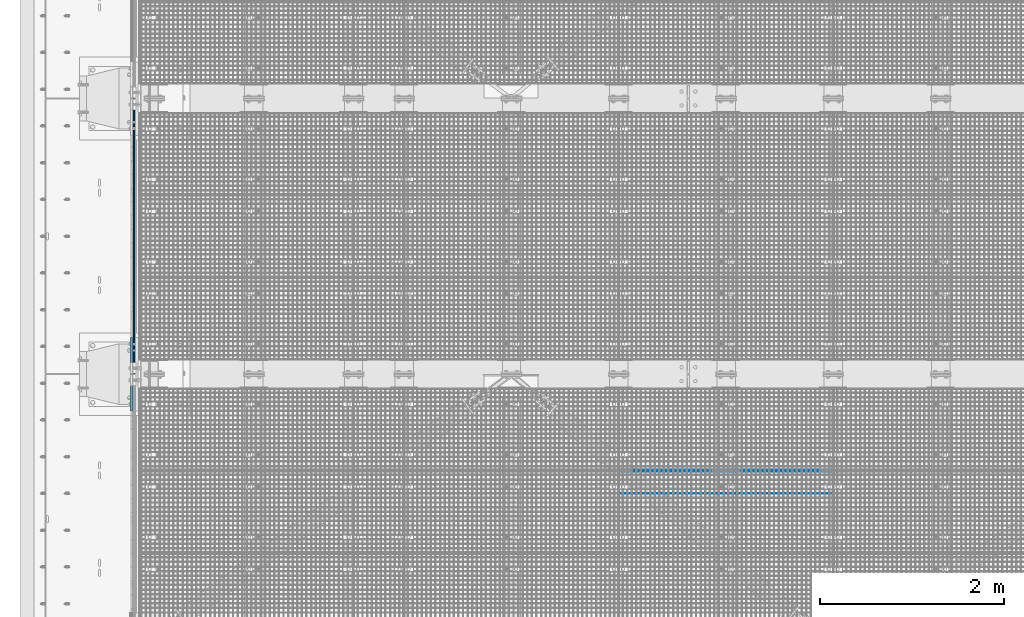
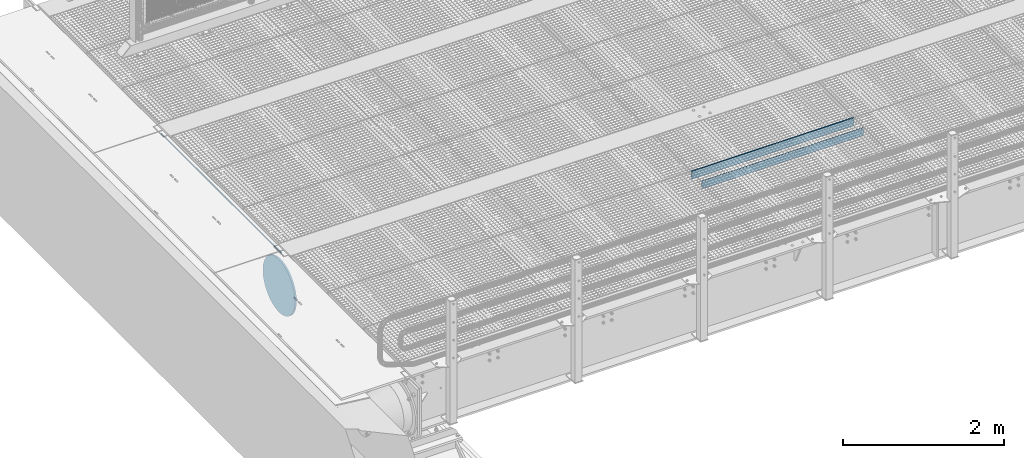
# One storey, part 256 of 1530: 5 beams.
"""IFC2X3 building model written with IfcOpenShell, lengths in millimetres."""

from ifc_helpers import new_model, si_unit, frame, origin_with_axes, place, context, subcontext, project, spatial, faceted_brep, material, type_object, element, save


model = new_model("IFC2X3")

# Units and contexts
model_context = context("Model", 3, precision=1e-05, world=origin_with_axes())
body_context = subcontext(model_context, "Body", "Model", "MODEL_VIEW")
ifc_project = project(units=[si_unit("LENGTHUNIT", "METRE", prefix="MILLI"), si_unit("AREAUNIT", "SQUARE_METRE"), si_unit("VOLUMEUNIT", "CUBIC_METRE"), si_unit("MASSUNIT", "GRAM", prefix="KILO"), si_unit("TIMEUNIT", "SECOND"), si_unit("PLANEANGLEUNIT", "RADIAN"), si_unit("SOLIDANGLEUNIT", "STERADIAN"), si_unit("THERMODYNAMICTEMPERATUREUNIT", "DEGREE_CELSIUS"), si_unit("LUMINOUSINTENSITYUNIT", "LUMEN")], contexts=[model_context])

# Site, building, storey
site_placement = place(None, origin_with_axes())
site = spatial("IfcSite", under=ifc_project, at=site_placement, Name="Brattvåg", CompositionType="ELEMENT")
building_placement = place(site_placement, origin_with_axes())
building = spatial("IfcBuilding", under=site, at=building_placement, Name="Undefined", CompositionType="ELEMENT")
storey_placement = place(building_placement, origin_with_axes())
storey = spatial("IfcBuildingStorey", under=building, at=storey_placement, Name="Undefined", CompositionType="ELEMENT", Elevation=0.0)

# Beams
ifc_material_1 = material(Name="STEEL/S355J2")
beam_type_1 = type_object("IfcBeamType", Name="120*5", PredefinedType="NOTDEFINED")
beam_1_placement = place(storey_placement, frame((7570.01317977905, 1699.9952545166, -59.9998626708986), z_axis=(0.0, 0.0, 1.0), x_axis=(-1.0, 1.99999855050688e-09, 0.0)))
element("IfcBeam", 1, at=beam_1_placement, inside=storey, type_object=beam_type_1, material=ifc_material_1, Name="GRATING", context=body_context, shape_type="Brep", body=[
    faceted_brep([(83.5790367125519, -2.50000000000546, 60.0000722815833), (83.5790367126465, -2.50000000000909, 35.0001373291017), (83.5790367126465, 2.50022888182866, 35.0001373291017), (83.5790367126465, 2.5, 60.0), (88.5790367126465, -2.50000000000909, 35.0001373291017), (88.5790367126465, 2.50022888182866, 35.0001373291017), (88.5790367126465, -2.50000000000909, 60.0001373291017), (88.5790367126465, 2.5, 60.0), (38.6284370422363, -2.50000000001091, 60.0001373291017), (38.6284370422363, 2.5, 60.0), (38.6284370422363, 2.49999999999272, 35.0001373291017), (38.6284370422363, -2.50000000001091, 35.0001373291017), (33.6284370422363, 2.49999999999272, 35.0001373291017), (33.6284370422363, -2.50000000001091, 35.0001373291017), (33.6284370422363, -2.5, 60.0), (33.6284370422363, 2.5, 60.0), (0.0, 2.5, 60.0), (0.0, -2.5, 60.0), (0.0, -2.5, -60.0), (0.0, 2.5, -60.0), (2319.99865722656, 2.5, -60.0), (2319.99865722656, -2.5, -60.0), (2319.99865722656, -2.5, 60.0), (2319.99865722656, 2.5, 60.0), (2286.37871932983, 2.5, 60.0), (2286.37871932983, -2.50000000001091, 60.0001373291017), (2286.37871932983, 2.49999999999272, 35.0001373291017), (2286.37871932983, -2.50000000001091, 35.0001373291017), (2281.37871932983, 2.49999999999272, 35.0001373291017), (2281.37871932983, -2.50000000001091, 35.0001373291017), (2281.37871932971, -2.50000000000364, 60.0000634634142), (2281.37871932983, 2.5, 60.0), (2236.42859649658, 2.5, 60.0), (2236.42859649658, -2.50000000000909, 60.0001373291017), (2236.42859649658, 2.50022888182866, 35.0001373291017), (2236.42859649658, -2.50000000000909, 35.0001373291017), (2231.42859649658, 2.50022888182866, 35.0001373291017), (2231.42859649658, -2.50000000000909, 35.0001373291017), (2231.42859649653, -2.50000000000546, 60.0000910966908), (2231.42859649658, 2.5, 60.0), (2186.47847366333, 2.5, 60.0), (2186.47847366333, -2.50000000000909, 60.0001373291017), (2186.47847366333, 2.50022888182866, 35.0001373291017), (2186.47847366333, -2.50000000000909, 35.0001373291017), (2181.47847366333, 2.50022888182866, 35.0001373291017), (2181.47847366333, -2.50000000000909, 35.0001373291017), (2181.47847366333, -2.5, 60.0), (2181.47847366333, 2.5, 60.0), (2136.52882766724, 2.5, 60.0), (2136.52882766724, -2.50000000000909, 60.0001373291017), (2136.52882766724, 2.50022888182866, 35.0001373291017), (2136.52882766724, -2.50000000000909, 35.0001373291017), (2131.52882766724, 2.50022888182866, 35.0001373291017), (2131.52882766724, -2.50000000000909, 35.0001373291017), (2131.52882766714, -2.50000000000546, 60.0000722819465), (2131.52882766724, 2.5, 60.0), (2086.57870483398, 2.5, 60.0), (2086.57870483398, -2.50000000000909, 60.0001373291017), (2086.57870483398, 2.50022888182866, 35.0001373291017), (2086.57870483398, -2.50000000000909, 35.0001373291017), (2081.57870483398, 2.50022888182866, 35.0001373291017), (2081.57870483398, -2.50000000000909, 35.0001373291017), (2081.57870483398, -2.5, 60.0), (2081.57870483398, 2.5, 60.0), (2036.62858200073, 2.5, 60.0), (2036.62858200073, -2.50000000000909, 60.0001373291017), (2036.62858200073, 2.50022888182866, 35.0001373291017), (2036.62858200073, -2.50000000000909, 35.0001373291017), (2031.62858200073, 2.50022888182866, 35.0001373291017), (2031.62858200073, -2.50000000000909, 35.0001373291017), (2031.62858200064, -2.50000000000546, 60.0000722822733), (2031.62858200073, 2.5, 60.0), (1986.67845916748, 2.5, 60.0), (1986.67845916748, -2.50000000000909, 60.0001373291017), (1986.67845916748, 2.50022888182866, 35.0001373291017), (1986.67845916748, -2.50000000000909, 35.0001373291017), (1981.67845916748, 2.50022888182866, 35.0001373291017), (1981.67845916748, -2.50000000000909, 35.0001373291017), (1981.67845916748, -2.5, 60.0), (1981.67845916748, 2.5, 60.0), (1936.72881317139, 2.5, 60.0), (1936.72881317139, -2.50000000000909, 60.0001373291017), (1936.72881317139, 2.50022888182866, 35.0001373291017), (1936.72881317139, -2.50000000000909, 35.0001373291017), (1931.72881317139, 2.50022888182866, 35.0001373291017), (1931.72881317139, -2.50000000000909, 35.0001373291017), (1931.72881317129, -2.50000000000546, 60.0000722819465), (1931.72881317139, 2.5, 60.0), (1886.77869033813, 2.5, 60.0), (1886.77869033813, -2.50000000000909, 60.0001373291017), (1886.77869033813, 2.50022888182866, 35.0001373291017), (1886.77869033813, -2.50000000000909, 35.0001373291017), (1881.77869033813, 2.50022888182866, 35.0001373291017), (1881.77869033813, -2.50000000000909, 35.0001373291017), (1881.77869033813, -2.5, 60.0), (1881.77869033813, 2.5, 60.0), (1836.82856750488, 2.5, 60.0), (1836.82856750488, -2.50000000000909, 60.0001373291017), (1836.82856750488, 2.50022888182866, 35.0001373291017), (1836.82856750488, -2.50000000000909, 35.0001373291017), (1831.82856750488, 2.50022888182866, 35.0001373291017), (1831.82856750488, -2.50000000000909, 35.0001373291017), (1831.82856750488, -2.5, 60.0), (1831.82856750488, 2.5, 60.0), (1786.87892150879, 2.5, 60.0), (1786.87892150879, -2.50000000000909, 60.0001373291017), (1786.87892150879, 2.50022888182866, 35.0001373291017), (1786.87892150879, -2.50000000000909, 35.0001373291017), (1781.87892150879, 2.50022888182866, 35.0001373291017), (1781.87892150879, -2.50000000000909, 35.0001373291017), (1781.87892150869, -2.50000000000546, 60.0000722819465), (1781.87892150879, 2.5, 60.0), (1736.92879867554, 2.5, 60.0), (1736.92879867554, -2.50000000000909, 60.0001373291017), (1736.92879867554, 2.50022888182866, 35.0001373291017), (1736.92879867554, -2.50000000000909, 35.0001373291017), (1731.92879867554, 2.50022888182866, 35.0001373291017), (1731.92879867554, -2.50000000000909, 35.0001373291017), (1731.92879867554, -2.5, 60.0), (1731.92879867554, 2.5, 60.0), (1686.97867584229, 2.5, 60.0), (1686.97867584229, -2.50000000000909, 60.0001373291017), (1686.97867584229, 2.50022888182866, 35.0001373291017), (1686.97867584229, -2.50000000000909, 35.0001373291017), (1681.97867584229, 2.50022888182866, 35.0001373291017), (1681.97867584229, -2.50000000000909, 35.0001373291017), (1681.97867584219, -2.50000000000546, 60.0000722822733), (1681.97867584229, 2.5, 60.0), (1637.02855300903, 2.5, 60.0), (1637.02855300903, -2.50000000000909, 60.0001373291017), (1637.02855300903, 2.50022888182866, 35.0001373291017), (1637.02855300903, -2.50000000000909, 35.0001373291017), (1632.02855300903, 2.50022888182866, 35.0001373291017), (1632.02855300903, -2.50000000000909, 35.0001373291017), (1632.02855300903, -2.5, 60.0), (1632.02855300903, 2.5, 60.0), (1587.07890701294, 2.5, 60.0), (1587.07890701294, -2.50000000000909, 60.0001373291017), (1587.07890701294, 2.50022888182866, 35.0001373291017), (1587.07890701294, -2.50000000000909, 35.0001373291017), (1582.07890701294, 2.50022888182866, 35.0001373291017), (1582.07890701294, -2.50000000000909, 35.0001373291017), (1582.07890701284, -2.50000000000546, 60.0000722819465), (1582.07890701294, 2.5, 60.0), (1537.12878417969, 2.5, 60.0), (1537.12878417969, -2.50000000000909, 60.0001373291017), (1537.12878417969, 2.50022888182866, 35.0001373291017), (1537.12878417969, -2.50000000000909, 35.0001373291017), (1532.12878417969, 2.50022888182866, 35.0001373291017), (1532.12878417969, -2.50000000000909, 35.0001373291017), (1532.12878417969, -2.5, 60.0), (1532.12878417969, 2.5, 60.0), (1487.17866134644, 2.5, 60.0), (1487.17866134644, -2.50000000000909, 60.0001373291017), (1487.17866134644, 2.50022888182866, 35.0001373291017), (1487.17866134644, -2.50000000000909, 35.0001373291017), (1482.17866134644, 2.50022888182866, 35.0001373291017), (1482.17866134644, -2.50000000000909, 35.0001373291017), (1482.17866134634, -2.50000000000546, 60.0000722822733), (1482.17866134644, 2.5, 60.0), (1437.22853851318, 2.5, 60.0), (1437.22853851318, -2.50000000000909, 60.0001373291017), (1437.22853851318, 2.50022888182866, 35.0001373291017), (1437.22853851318, -2.50000000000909, 35.0001373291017), (1432.22853851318, 2.50022888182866, 35.0001373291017), (1432.22853851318, -2.50000000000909, 35.0001373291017), (1432.22853851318, -2.5, 60.0), (1432.22853851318, 2.5, 60.0), (1387.27889251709, 2.5, 60.0), (1387.27889251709, -2.50000000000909, 60.0001373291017), (1387.27889251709, 2.50022888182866, 35.0001373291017), (1387.27889251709, -2.50000000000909, 35.0001373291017), (1382.27889251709, 2.50022888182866, 35.0001373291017), (1382.27889251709, -2.50000000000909, 35.0001373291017), (1382.278892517, -2.50000000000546, 60.0000722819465), (1382.27889251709, 2.5, 60.0), (1337.32876968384, 2.5, 60.0), (1337.32876968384, -2.50000000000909, 60.0001373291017), (1337.32876968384, 2.50022888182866, 35.0001373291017), (1337.32876968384, -2.50000000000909, 35.0001373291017), (1332.32876968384, 2.50022888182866, 35.0001373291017), (1332.32876968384, -2.50000000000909, 35.0001373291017), (1332.32876968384, -2.5, 60.0), (1332.32876968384, 2.5, 60.0), (1287.37864685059, 2.5, 60.0), (1287.37864685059, -2.50000000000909, 60.0001373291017), (1287.37864685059, 2.50022888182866, 35.0001373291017), (1287.37864685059, -2.50000000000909, 35.0001373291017), (1282.37864685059, 2.50022888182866, 35.0001373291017), (1282.37864685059, -2.50000000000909, 35.0001373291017), (1282.37864685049, -2.50000000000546, 60.0000722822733), (1282.37864685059, 2.5, 60.0), (1237.42852401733, 2.5, 60.0), (1237.42852401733, -2.50000000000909, 60.0001373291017), (1237.42852401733, 2.50022888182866, 35.0001373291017), (1237.42852401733, -2.50000000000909, 35.0001373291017), (1232.42852401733, 2.50022888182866, 35.0001373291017), (1232.42852401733, -2.50000000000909, 35.0001373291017), (1232.42852401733, -2.5, 60.0), (1232.42852401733, 2.5, 60.0), (1187.47887802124, 2.5, 60.0), (1187.47887802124, -2.50000000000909, 60.0001373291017), (1187.47887802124, 2.50022888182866, 35.0001373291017), (1187.47887802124, -2.50000000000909, 35.0001373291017), (1182.47887802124, 2.50022888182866, 35.0001373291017), (1182.47887802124, -2.50000000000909, 35.0001373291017), (1182.47887802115, -2.50000000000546, 60.0000722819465), (1182.47887802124, 2.5, 60.0), (1137.52875518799, 2.5, 60.0), (1137.52875518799, -2.50000000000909, 60.0001373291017), (1137.52875518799, 2.50022888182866, 35.0001373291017), (1137.52875518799, -2.50000000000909, 35.0001373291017), (1132.52875518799, 2.50022888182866, 35.0001373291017), (1132.52875518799, -2.50000000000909, 35.0001373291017), (1132.52875518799, -2.5, 60.0), (1132.52875518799, 2.5, 60.0), (1087.57863235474, 2.5, 60.0), (1087.57863235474, -2.50000000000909, 60.0001373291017), (1087.57863235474, 2.50022888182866, 35.0001373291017), (1087.57863235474, -2.50000000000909, 35.0001373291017), (1082.57863235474, 2.50022888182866, 35.0001373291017), (1082.57863235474, -2.50000000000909, 35.0001373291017), (1082.57863235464, -2.50000000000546, 60.0000722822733), (1082.57863235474, 2.5, 60.0), (1037.62850952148, 2.5, 60.0), (1037.62850952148, -2.50000000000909, 60.0001373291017), (1037.62850952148, 2.50022888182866, 35.0001373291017), (1037.62850952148, -2.50000000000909, 35.0001373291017), (1032.62850952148, 2.50022888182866, 35.0001373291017), (1032.62850952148, -2.50000000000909, 35.0001373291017), (1032.62850952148, -2.5, 60.0), (1032.62850952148, 2.5, 60.0), (987.678863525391, 2.5, 60.0), (987.678863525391, -2.50000000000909, 60.0001373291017), (987.678863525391, 2.50022888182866, 35.0001373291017), (987.678863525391, -2.50000000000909, 35.0001373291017), (982.678863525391, 2.50022888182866, 35.0001373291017), (982.678863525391, -2.50000000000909, 35.0001373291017), (982.678863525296, -2.50000000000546, 60.0000722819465), (982.678863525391, 2.5, 60.0), (937.728740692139, 2.5, 60.0), (937.728740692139, -2.50000000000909, 60.0001373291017), (937.728740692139, 2.50022888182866, 35.0001373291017), (937.728740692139, -2.50000000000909, 35.0001373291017), (932.728740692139, 2.50022888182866, 35.0001373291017), (932.728740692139, -2.50000000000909, 35.0001373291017), (932.728740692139, -2.5, 60.0), (932.728740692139, 2.5, 60.0), (887.778617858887, 2.5, 60.0), (887.778617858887, -2.50000000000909, 60.0001373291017), (887.778617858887, 2.50022888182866, 35.0001373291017), (887.778617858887, -2.50000000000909, 35.0001373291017), (882.778617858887, 2.50022888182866, 35.0001373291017), (882.778617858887, -2.50000000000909, 35.0001373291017), (882.778617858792, -2.50000000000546, 60.0000722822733), (882.778617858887, 2.5, 60.0), (837.828495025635, 2.5, 60.0), (837.828495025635, -2.50000000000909, 60.0001373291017), (837.828495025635, 2.50022888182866, 35.0001373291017), (837.828495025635, -2.50000000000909, 35.0001373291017), (832.828495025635, 2.50022888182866, 35.0001373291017), (832.828495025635, -2.50000000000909, 35.0001373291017), (832.828495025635, -2.5, 60.0), (832.828495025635, 2.5, 60.0), (787.878849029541, 2.5, 60.0), (787.878849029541, -2.50000000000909, 60.0001373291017), (787.878849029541, 2.50022888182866, 35.0001373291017), (787.878849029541, -2.50000000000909, 35.0001373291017), (782.878849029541, 2.50022888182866, 35.0001373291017), (782.878849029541, -2.50000000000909, 35.0001373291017), (782.878849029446, -2.50000000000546, 60.0000722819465), (782.878849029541, 2.5, 60.0), (737.928726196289, 2.5, 60.0), (737.928726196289, -2.50000000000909, 60.0001373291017), (737.928726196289, 2.50022888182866, 35.0001373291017), (737.928726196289, -2.50000000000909, 35.0001373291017), (732.928726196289, 2.50022888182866, 35.0001373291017), (732.928726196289, -2.50000000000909, 35.0001373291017), (732.928726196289, -2.5, 60.0), (732.928726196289, 2.5, 60.0), (687.978603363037, 2.5, 60.0), (687.978603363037, -2.50000000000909, 60.0001373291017), (687.978603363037, 2.50022888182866, 35.0001373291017), (687.978603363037, -2.50000000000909, 35.0001373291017), (682.978603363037, 2.50022888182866, 35.0001373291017), (682.978603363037, -2.50000000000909, 35.0001373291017), (682.978603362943, -2.50000000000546, 60.0000722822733), (682.978603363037, 2.5, 60.0), (638.028480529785, 2.5, 60.0), (638.028480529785, -2.50000000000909, 60.0001373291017), (638.028480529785, 2.50022888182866, 35.0001373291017), (638.028480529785, -2.50000000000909, 35.0001373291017), (633.028480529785, 2.50022888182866, 35.0001373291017), (633.028480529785, -2.50000000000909, 35.0001373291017), (633.028480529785, -2.5, 60.0), (633.028480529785, 2.5, 60.0), (588.078834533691, 2.5, 60.0), (588.078834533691, -2.50000000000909, 60.0001373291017), (588.078834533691, 2.50022888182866, 35.0001373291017), (588.078834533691, -2.50000000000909, 35.0001373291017), (583.078834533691, 2.50022888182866, 35.0001373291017), (583.078834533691, -2.50000000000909, 35.0001373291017), (583.078834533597, -2.50000000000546, 60.0000722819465), (583.078834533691, 2.5, 60.0), (538.128711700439, 2.5, 60.0), (538.128711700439, -2.50000000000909, 60.0001373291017), (538.128711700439, 2.50022888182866, 35.0001373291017), (538.128711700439, -2.50000000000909, 35.0001373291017), (533.128711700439, 2.50022888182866, 35.0001373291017), (533.128711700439, -2.50000000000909, 35.0001373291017), (533.128711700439, -2.5, 60.0), (533.128711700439, 2.5, 60.0), (488.178588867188, 2.5, 60.0), (488.178588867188, -2.50000000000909, 60.0001373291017), (488.178588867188, 2.50022888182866, 35.0001373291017), (488.178588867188, -2.50000000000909, 35.0001373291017), (483.178588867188, 2.50022888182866, 35.0001373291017), (483.178588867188, -2.50000000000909, 35.0001373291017), (483.178588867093, -2.50000000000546, 60.0000722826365), (483.178588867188, 2.5, 60.0), (438.228942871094, 2.5, 60.0), (438.228942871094, -2.50000000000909, 60.0001373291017), (438.228942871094, 2.50022888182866, 35.0001373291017), (438.228942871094, -2.50000000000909, 35.0001373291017), (433.228942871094, 2.50022888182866, 35.0001373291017), (433.228942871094, -2.50000000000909, 35.0001373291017), (433.228942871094, -2.5, 60.0), (433.228942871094, 2.5, 60.0), (388.278820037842, 2.5, 60.0), (388.278820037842, -2.50000000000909, 60.0001373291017), (388.278820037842, 2.50022888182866, 35.0001373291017), (388.278820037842, -2.50000000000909, 35.0001373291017), (383.278820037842, 2.50022888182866, 35.0001373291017), (383.278820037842, -2.50000000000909, 35.0001373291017), (383.278820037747, -2.50000000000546, 60.0000722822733), (383.278820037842, 2.5, 60.0), (338.32869720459, 2.5, 60.0), (338.32869720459, -2.50000000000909, 60.0001373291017), (338.32869720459, 2.50022888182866, 35.0001373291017), (338.32869720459, -2.50000000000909, 35.0001373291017), (333.32869720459, 2.50022888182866, 35.0001373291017), (333.32869720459, -2.50000000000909, 35.0001373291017), (333.32869720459, -2.5, 60.0), (333.32869720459, 2.5, 60.0), (288.378574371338, 2.5, 60.0), (288.378574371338, -2.50000000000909, 60.0001373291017), (288.378574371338, 2.50022888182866, 35.0001373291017), (288.378574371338, -2.50000000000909, 35.0001373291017), (283.378574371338, 2.50022888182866, 35.0001373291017), (283.378574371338, -2.50000000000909, 35.0001373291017), (283.378574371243, -2.50000000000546, 60.0000722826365), (283.378574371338, 2.5, 60.0), (238.428928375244, 2.5, 60.0), (238.428928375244, -2.50000000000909, 60.0001373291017), (238.428928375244, 2.50022888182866, 35.0001373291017), (238.428928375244, -2.50000000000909, 35.0001373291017), (233.428928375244, 2.50022888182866, 35.0001373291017), (233.428928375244, -2.50000000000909, 35.0001373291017), (233.428928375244, -2.5, 60.0), (233.428928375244, 2.5, 60.0), (188.478328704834, 2.5, 60.0), (188.478328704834, -2.50000000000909, 60.0001373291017), (188.478328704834, 2.50022888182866, 35.0001373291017), (188.478328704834, -2.50000000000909, 35.0001373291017), (183.478328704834, 2.50022888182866, 35.0001373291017), (183.478328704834, -2.50000000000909, 35.0001373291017), (183.478328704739, -2.50000000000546, 60.0000722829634), (183.478328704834, 2.5, 60.0), (138.52868270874, 2.5, 60.0), (138.52868270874, -2.50000000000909, 60.0001373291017), (138.52868270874, 2.50022888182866, 35.0001373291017), (138.52868270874, -2.50000000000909, 35.0001373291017), (133.52868270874, 2.50022888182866, 35.0001373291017), (133.52868270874, -2.50000000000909, 35.0001373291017), (133.52868270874, -2.5, 60.0), (133.52868270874, 2.5, 60.0)], [[[0, 1, 2, 3]], [[4, 5, 2, 1]], [[6, 7, 5, 4]], [[8, 9, 10, 11]], [[11, 10, 12, 13]], [[14, 13, 12, 15]], [[16, 17, 14, 15]], [[18, 17, 16, 19]], [[18, 19, 20, 21]], [[22, 21, 20, 23]], [[22, 23, 24, 25]], [[25, 24, 26, 27]], [[27, 26, 28, 29]], [[30, 29, 28, 31]], [[32, 33, 30, 31]], [[33, 32, 34, 35]], [[35, 34, 36, 37]], [[38, 37, 36, 39]], [[40, 41, 38, 39]], [[41, 40, 42, 43]], [[43, 42, 44, 45]], [[46, 45, 44, 47]], [[46, 47, 48, 49]], [[49, 48, 50, 51]], [[51, 50, 52, 53]], [[54, 53, 52, 55]], [[56, 57, 54, 55]], [[57, 56, 58, 59]], [[59, 58, 60, 61]], [[62, 61, 60, 63]], [[62, 63, 64, 65]], [[65, 64, 66, 67]], [[67, 66, 68, 69]], [[70, 69, 68, 71]], [[72, 73, 70, 71]], [[73, 72, 74, 75]], [[75, 74, 76, 77]], [[78, 77, 76, 79]], [[78, 79, 80, 81]], [[81, 80, 82, 83]], [[83, 82, 84, 85]], [[86, 85, 84, 87]], [[88, 89, 86, 87]], [[89, 88, 90, 91]], [[91, 90, 92, 93]], [[94, 93, 92, 95]], [[94, 95, 96, 97]], [[97, 96, 98, 99]], [[99, 98, 100, 101]], [[102, 101, 100, 103]], [[102, 103, 104, 105]], [[105, 104, 106, 107]], [[107, 106, 108, 109]], [[110, 109, 108, 111]], [[112, 113, 110, 111]], [[113, 112, 114, 115]], [[115, 114, 116, 117]], [[118, 117, 116, 119]], [[118, 119, 120, 121]], [[121, 120, 122, 123]], [[123, 122, 124, 125]], [[126, 125, 124, 127]], [[128, 129, 126, 127]], [[129, 128, 130, 131]], [[131, 130, 132, 133]], [[134, 133, 132, 135]], [[134, 135, 136, 137]], [[137, 136, 138, 139]], [[139, 138, 140, 141]], [[142, 141, 140, 143]], [[144, 145, 142, 143]], [[145, 144, 146, 147]], [[147, 146, 148, 149]], [[150, 149, 148, 151]], [[150, 151, 152, 153]], [[153, 152, 154, 155]], [[155, 154, 156, 157]], [[158, 157, 156, 159]], [[160, 161, 158, 159]], [[161, 160, 162, 163]], [[163, 162, 164, 165]], [[166, 165, 164, 167]], [[166, 167, 168, 169]], [[169, 168, 170, 171]], [[171, 170, 172, 173]], [[174, 173, 172, 175]], [[176, 177, 174, 175]], [[177, 176, 178, 179]], [[179, 178, 180, 181]], [[182, 181, 180, 183]], [[182, 183, 184, 185]], [[185, 184, 186, 187]], [[187, 186, 188, 189]], [[190, 189, 188, 191]], [[192, 193, 190, 191]], [[193, 192, 194, 195]], [[195, 194, 196, 197]], [[198, 197, 196, 199]], [[198, 199, 200, 201]], [[201, 200, 202, 203]], [[203, 202, 204, 205]], [[206, 205, 204, 207]], [[208, 209, 206, 207]], [[209, 208, 210, 211]], [[211, 210, 212, 213]], [[214, 213, 212, 215]], [[214, 215, 216, 217]], [[217, 216, 218, 219]], [[219, 218, 220, 221]], [[222, 221, 220, 223]], [[224, 225, 222, 223]], [[225, 224, 226, 227]], [[227, 226, 228, 229]], [[230, 229, 228, 231]], [[230, 231, 232, 233]], [[233, 232, 234, 235]], [[235, 234, 236, 237]], [[238, 237, 236, 239]], [[240, 241, 238, 239]], [[241, 240, 242, 243]], [[243, 242, 244, 245]], [[246, 245, 244, 247]], [[246, 247, 248, 249]], [[249, 248, 250, 251]], [[251, 250, 252, 253]], [[254, 253, 252, 255]], [[256, 257, 254, 255]], [[257, 256, 258, 259]], [[259, 258, 260, 261]], [[262, 261, 260, 263]], [[262, 263, 264, 265]], [[265, 264, 266, 267]], [[267, 266, 268, 269]], [[270, 269, 268, 271]], [[272, 273, 270, 271]], [[273, 272, 274, 275]], [[275, 274, 276, 277]], [[278, 277, 276, 279]], [[278, 279, 280, 281]], [[281, 280, 282, 283]], [[283, 282, 284, 285]], [[286, 285, 284, 287]], [[288, 289, 286, 287]], [[289, 288, 290, 291]], [[291, 290, 292, 293]], [[294, 293, 292, 295]], [[294, 295, 296, 297]], [[297, 296, 298, 299]], [[299, 298, 300, 301]], [[302, 301, 300, 303]], [[304, 305, 302, 303]], [[305, 304, 306, 307]], [[307, 306, 308, 309]], [[310, 309, 308, 311]], [[310, 311, 312, 313]], [[313, 312, 314, 315]], [[315, 314, 316, 317]], [[318, 317, 316, 319]], [[320, 321, 318, 319]], [[321, 320, 322, 323]], [[323, 322, 324, 325]], [[326, 325, 324, 327]], [[326, 327, 328, 329]], [[329, 328, 330, 331]], [[331, 330, 332, 333]], [[334, 333, 332, 335]], [[336, 337, 334, 335]], [[337, 336, 338, 339]], [[339, 338, 340, 341]], [[342, 341, 340, 343]], [[342, 343, 344, 345]], [[345, 344, 346, 347]], [[347, 346, 348, 349]], [[350, 349, 348, 351]], [[352, 353, 350, 351]], [[353, 352, 354, 355]], [[355, 354, 356, 357]], [[358, 357, 356, 359]], [[358, 359, 360, 361]], [[361, 360, 362, 363]], [[363, 362, 364, 365]], [[366, 365, 364, 367]], [[368, 369, 366, 367]], [[369, 368, 370, 371]], [[371, 370, 372, 373]], [[374, 373, 372, 375]], [[1, 0, 8, 11, 13, 14, 17, 18, 21, 22, 25, 27, 29, 30, 33, 35, 37, 38, 41, 43, 45, 46, 49, 51, 53, 54, 57, 59, 61, 62, 65, 67, 69, 70, 73, 75, 77, 78, 81, 83, 85, 86, 89, 91, 93, 94, 97, 99, 101, 102, 105, 107, 109, 110, 113, 115, 117, 118, 121, 123, 125, 126, 129, 131, 133, 134, 137, 139, 141, 142, 145, 147, 149, 150, 153, 155, 157, 158, 161, 163, 165, 166, 169, 171, 173, 174, 177, 179, 181, 182, 185, 187, 189, 190, 193, 195, 197, 198, 201, 203, 205, 206, 209, 211, 213, 214, 217, 219, 221, 222, 225, 227, 229, 230, 233, 235, 237, 238, 241, 243, 245, 246, 249, 251, 253, 254, 257, 259, 261, 262, 265, 267, 269, 270, 273, 275, 277, 278, 281, 283, 285, 286, 289, 291, 293, 294, 297, 299, 301, 302, 305, 307, 309, 310, 313, 315, 317, 318, 321, 323, 325, 326, 329, 331, 333, 334, 337, 339, 341, 342, 345, 347, 349, 350, 353, 355, 357, 358, 361, 363, 365, 366, 369, 371, 373, 374, 6, 4]], [[9, 8, 0, 3]], [[375, 372, 370, 368, 367, 364, 362, 360, 359, 356, 354, 352, 351, 348, 346, 344, 343, 340, 338, 336, 335, 332, 330, 328, 327, 324, 322, 320, 319, 316, 314, 312, 311, 308, 306, 304, 303, 300, 298, 296, 295, 292, 290, 288, 287, 284, 282, 280, 279, 276, 274, 272, 271, 268, 266, 264, 263, 260, 258, 256, 255, 252, 250, 248, 247, 244, 242, 240, 239, 236, 234, 232, 231, 228, 226, 224, 223, 220, 218, 216, 215, 212, 210, 208, 207, 204, 202, 200, 199, 196, 194, 192, 191, 188, 186, 184, 183, 180, 178, 176, 175, 172, 170, 168, 167, 164, 162, 160, 159, 156, 154, 152, 151, 148, 146, 144, 143, 140, 138, 136, 135, 132, 130, 128, 127, 124, 122, 120, 119, 116, 114, 112, 111, 108, 106, 104, 103, 100, 98, 96, 95, 92, 90, 88, 87, 84, 82, 80, 79, 76, 74, 72, 71, 68, 66, 64, 63, 60, 58, 56, 55, 52, 50, 48, 47, 44, 42, 40, 39, 36, 34, 32, 31, 28, 26, 24, 23, 20, 19, 16, 15, 12, 10, 9, 3, 2, 5, 7]], [[374, 375, 7, 6]]]),
])
for number, where, z_axis, x_axis, name in (
    (2, (7575.00899291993, 1941.49917602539, -59.9998626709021), (0.0, 0.0, 1.0), (-1.0, 1.99999855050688e-09, 0.0), "GRATING"),
    (3, (5245.01067138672, 1955.49868774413, -59.9998626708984), (0.0, 0.0, 1.0), (1.0, 0.0, 0.0), "GRATING"),
):
    element("IfcBeam", number, at=place(storey_placement, frame(where, z_axis=z_axis, x_axis=x_axis)), inside=storey, type_object=beam_type_1, material=ifc_material_1, Name=name, context=body_context, shape_type="Brep", body=[
        faceted_brep([(0.0, 2.5, -60.0), (0.0, 2.5, 60.0), (2329.99832153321, 2.5, 60.0), (2329.99832153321, 2.5, -60.0), (0.0, -2.5, 60.0), (2329.99832153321, -2.5, 60.0), (0.0, -2.5, -60.0), (2329.99832153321, -2.5, -60.0)], [[[0, 1, 2, 3]], [[1, 4, 5, 2]], [[4, 6, 7, 5]], [[6, 0, 3, 7]], [[5, 7, 3, 2]], [[6, 4, 1, 0]]]),
    ])
ifc_material_2 = material(Name="MISCELLANEOUS/NULLVEKT")
beam_type_2 = type_object("IfcBeamType", Name="D800", PredefinedType="NOTDEFINED")
beam_2_placement = place(storey_placement, frame((-50.0046202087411, 2999.99719192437, -515.000125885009), z_axis=(0.0, 0.0, 1.0), x_axis=(-1.0, 1.99999855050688e-09, 0.0)))
element("IfcBeam", 4, at=beam_2_placement, inside=storey, type_object=beam_type_2, material=ifc_material_2, Name="STÅLBJELKE", context=body_context, shape_type="Brep", body=[
    faceted_brep([(0.0, -400.0, 0.0), (0.0, -396.577944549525, -52.210476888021), (25.0, -396.577944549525, -52.210476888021), (25.0, -400.0, 0.0), (0.0, -386.370330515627, -103.527618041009), (25.0, -386.370330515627, -103.527618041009), (0.0, -369.551813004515, -153.073372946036), (25.0, -369.551813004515, -153.073372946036), (0.0, -346.410161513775, -200.0), (25.0, -346.410161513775, -200.0), (0.0, -317.341336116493, -243.504571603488), (25.0, -317.341336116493, -243.504571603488), (0.0, -282.842712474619, -282.842712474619), (25.0, -282.842712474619, -282.842712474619), (0.0, -243.504571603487, -317.341336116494), (25.0, -243.504571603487, -317.341336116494), (0.0, -200.0, -346.410161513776), (25.0, -200.0, -346.410161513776), (0.0, -153.073372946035, -369.551813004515), (25.0, -153.073372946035, -369.551813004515), (0.0, -103.527618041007, -386.370330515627), (25.0, -103.527618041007, -386.370330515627), (0.0, -52.2104768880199, -396.577944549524), (25.0, -52.2104768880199, -396.577944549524), (0.0, 0.0, -400.0), (25.0, 0.0, -400.0), (0.0, 52.2104768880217, -396.577944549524), (25.0, 52.2104768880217, -396.577944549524), (0.0, 103.527618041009, -386.370330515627), (25.0, 103.527618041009, -386.370330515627), (0.0, 153.073372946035, -369.551813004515), (25.0, 153.073372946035, -369.551813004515), (0.0, 200.0, -346.410161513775), (25.0, 200.0, -346.410161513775), (0.0, 243.504571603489, -317.341336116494), (25.0, 243.504571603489, -317.341336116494), (0.0, 282.842712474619, -282.842712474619), (25.0, 282.842712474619, -282.842712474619), (0.0, 317.341336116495, -243.504571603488), (25.0, 317.341336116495, -243.504571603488), (0.0, 346.410161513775, -200.0), (25.0, 346.410161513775, -200.0), (0.0, 369.551813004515, -153.073372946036), (25.0, 369.551813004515, -153.073372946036), (0.0, 386.370330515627, -103.527618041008), (25.0, 386.370330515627, -103.527618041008), (0.0, 396.577944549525, -52.2104768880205), (25.0, 396.577944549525, -52.2104768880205), (0.0, 400.0, 0.0), (25.0, 400.0, 0.0), (0.0, 396.577944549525, 52.2104768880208), (25.0, 396.577944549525, 52.2104768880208), (0.0, 386.370330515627, 103.527618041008), (25.0, 386.370330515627, 103.527618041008), (0.0, 369.551813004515, 153.073372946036), (25.0, 369.551813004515, 153.073372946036), (0.0, 346.410161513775, 200.0), (25.0, 346.410161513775, 200.0), (0.0, 317.341336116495, 243.504571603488), (25.0, 317.341336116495, 243.504571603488), (0.0, 282.842712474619, 282.842712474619), (25.0, 282.842712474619, 282.842712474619), (0.0, 243.504571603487, 317.341336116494), (25.0, 243.504571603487, 317.341336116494), (0.0, 200.0, 346.410161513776), (25.0, 200.0, 346.410161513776), (0.0, 153.073372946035, 369.551813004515), (25.0, 153.073372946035, 369.551813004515), (0.0, 103.527618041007, 386.370330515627), (25.0, 103.527618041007, 386.370330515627), (0.0, 52.2104768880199, 396.577944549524), (25.0, 52.2104768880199, 396.577944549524), (0.0, 0.0, 400.0), (25.0, 0.0, 400.0), (0.0, -52.2104768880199, 396.577944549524), (25.0, -52.2104768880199, 396.577944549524), (0.0, -103.527618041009, 386.370330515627), (25.0, -103.527618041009, 386.370330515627), (0.0, -153.073372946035, 369.551813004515), (25.0, -153.073372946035, 369.551813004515), (0.0, -200.0, 346.410161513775), (25.0, -200.0, 346.410161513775), (0.0, -243.504571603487, 317.341336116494), (25.0, -243.504571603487, 317.341336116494), (0.0, -282.842712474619, 282.842712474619), (25.0, -282.842712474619, 282.842712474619), (0.0, -317.341336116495, 243.504571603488), (25.0, -317.341336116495, 243.504571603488), (0.0, -346.410161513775, 200.0), (25.0, -346.410161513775, 200.0), (0.0, -369.551813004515, 153.073372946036), (25.0, -369.551813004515, 153.073372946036), (0.0, -386.370330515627, 103.527618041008), (25.0, -386.370330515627, 103.527618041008), (0.0, -396.577944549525, 52.2104768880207), (25.0, -396.577944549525, 52.2104768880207)], [[[0, 1, 2, 3]], [[1, 4, 5, 2]], [[4, 6, 7, 5]], [[6, 8, 9, 7]], [[8, 10, 11, 9]], [[10, 12, 13, 11]], [[12, 14, 15, 13]], [[14, 16, 17, 15]], [[16, 18, 19, 17]], [[18, 20, 21, 19]], [[20, 22, 23, 21]], [[22, 24, 25, 23]], [[24, 26, 27, 25]], [[26, 28, 29, 27]], [[28, 30, 31, 29]], [[30, 32, 33, 31]], [[32, 34, 35, 33]], [[34, 36, 37, 35]], [[36, 38, 39, 37]], [[38, 40, 41, 39]], [[40, 42, 43, 41]], [[42, 44, 45, 43]], [[44, 46, 47, 45]], [[46, 48, 49, 47]], [[48, 50, 51, 49]], [[50, 52, 53, 51]], [[52, 54, 55, 53]], [[54, 56, 57, 55]], [[56, 58, 59, 57]], [[58, 60, 61, 59]], [[60, 62, 63, 61]], [[62, 64, 65, 63]], [[64, 66, 67, 65]], [[66, 68, 69, 67]], [[68, 70, 71, 69]], [[70, 72, 73, 71]], [[72, 74, 75, 73]], [[74, 76, 77, 75]], [[76, 78, 79, 77]], [[78, 80, 81, 79]], [[80, 82, 83, 81]], [[82, 84, 85, 83]], [[84, 86, 87, 85]], [[86, 88, 89, 87]], [[88, 90, 91, 89]], [[90, 92, 93, 91]], [[92, 94, 95, 93]], [[94, 0, 3, 95]], [[5, 7, 9, 11, 13, 15, 17, 19, 21, 23, 25, 27, 29, 31, 33, 35, 37, 39, 41, 43, 45, 47, 49, 51, 53, 55, 57, 59, 61, 63, 65, 67, 69, 71, 73, 75, 77, 79, 81, 83, 85, 87, 89, 91, 93, 95, 3, 2]], [[94, 92, 90, 88, 86, 84, 82, 80, 78, 76, 74, 72, 70, 68, 66, 64, 62, 60, 58, 56, 54, 52, 50, 48, 46, 44, 42, 40, 38, 36, 34, 32, 30, 28, 26, 24, 22, 20, 18, 16, 14, 12, 10, 8, 6, 4, 1, 0]]]),
])
ifc_material_3 = material(Name="STEEL/S355N")
beam_type_3 = type_object("IfcBeamType", Name="D20", PredefinedType="NOTDEFINED")
beam_3_placement = place(storey_placement, frame((-34.9995994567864, 3005.00000000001, -35.001039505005), z_axis=(0.0, 0.0, 1.0), x_axis=(0.0, 1.0, 0.0)))
element("IfcBeam", 5, at=beam_3_placement, inside=storey, type_object=beam_type_3, material=ifc_material_3, Name="STÅLBJELKE", context=body_context, shape_type="Brep", body=[
    faceted_brep([(0.0, -10.0, 0.0), (0.0, -7.07106781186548, -7.07106781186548), (2990.0, -7.07106781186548, -7.07106781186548), (2990.0, -10.0, 0.0), (3.09790571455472e-12, 0.0, -10.0), (2990.0, 0.0, -10.0), (0.0, 7.07106781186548, -7.07106781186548), (2990.0, 7.07106781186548, -7.07106781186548), (0.0, 10.0, 0.0), (2990.0, 10.0, 0.0), (0.0, 7.07106781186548, 7.07106781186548), (2990.0, 7.07106781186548, 7.07106781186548), (-1.03633598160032e-12, 0.0, 10.0), (2990.0, 0.0, 10.0), (0.0, -7.07106781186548, 7.07106781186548), (2990.0, -7.07106781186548, 7.07106781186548)], [[[0, 1, 2, 3]], [[1, 4, 5, 2]], [[4, 6, 7, 5]], [[6, 8, 9, 7]], [[8, 10, 11, 9]], [[10, 12, 13, 11]], [[12, 14, 15, 13]], [[14, 0, 3, 15]], [[5, 7, 9, 11, 13, 15, 3, 2]], [[14, 12, 10, 8, 6, 4, 1, 0]]]),
])

save(model, "model.ifc")
